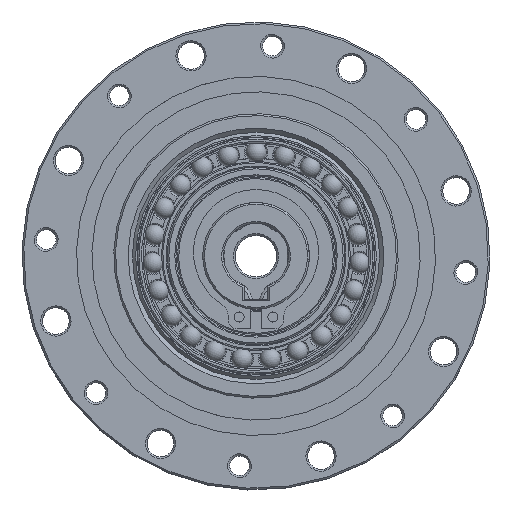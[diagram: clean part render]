
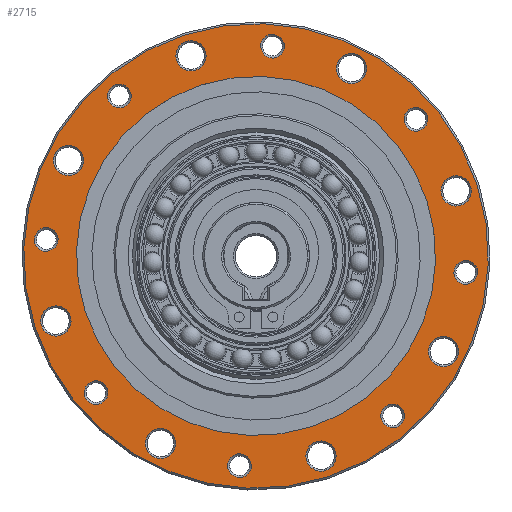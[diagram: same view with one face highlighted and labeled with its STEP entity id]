
A CAD part, top view. The second image highlights one B-rep face of the part: STEP entity #2715.
In plain terms, the highlighted planar face has unit normal (0, 0, 1).
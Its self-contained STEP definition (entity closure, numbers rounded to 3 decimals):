
#2715=ADVANCED_FACE('',(#3930,#3931,#3932,#3933,#3934,#3935,#3936,#3937,
#3938,#3939,#3940,#3941,#3942,#3943,#3944,#3945,#3946,#3947),#3347,.T.);
#3347=PLANE('',#12090);
#3930=FACE_BOUND('',#4901,.T.);
#3931=FACE_BOUND('',#4902,.T.);
#3932=FACE_BOUND('',#4903,.T.);
#3933=FACE_BOUND('',#4904,.T.);
#3934=FACE_BOUND('',#4905,.T.);
#3935=FACE_BOUND('',#4906,.T.);
#3936=FACE_BOUND('',#4907,.T.);
#3937=FACE_BOUND('',#4908,.T.);
#3938=FACE_BOUND('',#4909,.T.);
#3939=FACE_BOUND('',#4910,.T.);
#3940=FACE_BOUND('',#4911,.T.);
#3941=FACE_BOUND('',#4912,.T.);
#3942=FACE_BOUND('',#4913,.T.);
#3943=FACE_BOUND('',#4914,.T.);
#3944=FACE_BOUND('',#4915,.T.);
#3945=FACE_BOUND('',#4916,.T.);
#3946=FACE_BOUND('',#4917,.T.);
#3947=FACE_BOUND('',#4918,.T.);
#4901=EDGE_LOOP('',(#6159));
#4902=EDGE_LOOP('',(#6160));
#4903=EDGE_LOOP('',(#6161));
#4904=EDGE_LOOP('',(#6162));
#4905=EDGE_LOOP('',(#6163));
#4906=EDGE_LOOP('',(#6164));
#4907=EDGE_LOOP('',(#6165));
#4908=EDGE_LOOP('',(#6166));
#4909=EDGE_LOOP('',(#6167));
#4910=EDGE_LOOP('',(#6168));
#4911=EDGE_LOOP('',(#6169));
#4912=EDGE_LOOP('',(#6170));
#4913=EDGE_LOOP('',(#6171));
#4914=EDGE_LOOP('',(#6172));
#4915=EDGE_LOOP('',(#6173));
#4916=EDGE_LOOP('',(#6174));
#4917=EDGE_LOOP('',(#6175));
#4918=EDGE_LOOP('',(#6176));
#6159=ORIENTED_EDGE('',*,*,#9767,.T.);
#6160=ORIENTED_EDGE('',*,*,#9768,.T.);
#6161=ORIENTED_EDGE('',*,*,#9769,.T.);
#6162=ORIENTED_EDGE('',*,*,#9770,.T.);
#6163=ORIENTED_EDGE('',*,*,#9771,.T.);
#6164=ORIENTED_EDGE('',*,*,#9772,.T.);
#6165=ORIENTED_EDGE('',*,*,#9773,.T.);
#6166=ORIENTED_EDGE('',*,*,#9774,.T.);
#6167=ORIENTED_EDGE('',*,*,#9775,.T.);
#6168=ORIENTED_EDGE('',*,*,#9776,.T.);
#6169=ORIENTED_EDGE('',*,*,#9777,.T.);
#6170=ORIENTED_EDGE('',*,*,#9778,.T.);
#6171=ORIENTED_EDGE('',*,*,#9779,.T.);
#6172=ORIENTED_EDGE('',*,*,#9780,.T.);
#6173=ORIENTED_EDGE('',*,*,#9781,.T.);
#6174=ORIENTED_EDGE('',*,*,#9782,.T.);
#6175=ORIENTED_EDGE('',*,*,#9783,.T.);
#6176=ORIENTED_EDGE('',*,*,#9766,.F.);
#8696=VERTEX_POINT('',#17436);
#8697=VERTEX_POINT('',#17439);
#8698=VERTEX_POINT('',#17441);
#8699=VERTEX_POINT('',#17443);
#8700=VERTEX_POINT('',#17445);
#8701=VERTEX_POINT('',#17447);
#8702=VERTEX_POINT('',#17449);
#8703=VERTEX_POINT('',#17451);
#8704=VERTEX_POINT('',#17453);
#8705=VERTEX_POINT('',#17455);
#8706=VERTEX_POINT('',#17457);
#8707=VERTEX_POINT('',#17459);
#8708=VERTEX_POINT('',#17461);
#8709=VERTEX_POINT('',#17463);
#8710=VERTEX_POINT('',#17465);
#8711=VERTEX_POINT('',#17467);
#8712=VERTEX_POINT('',#17469);
#8713=VERTEX_POINT('',#17471);
#9766=EDGE_CURVE('',#8696,#8696,#11120,.T.);
#9767=EDGE_CURVE('',#8697,#8697,#11121,.T.);
#9768=EDGE_CURVE('',#8698,#8698,#11122,.T.);
#9769=EDGE_CURVE('',#8699,#8699,#11123,.T.);
#9770=EDGE_CURVE('',#8700,#8700,#11124,.T.);
#9771=EDGE_CURVE('',#8701,#8701,#11125,.T.);
#9772=EDGE_CURVE('',#8702,#8702,#11126,.T.);
#9773=EDGE_CURVE('',#8703,#8703,#11127,.T.);
#9774=EDGE_CURVE('',#8704,#8704,#11128,.T.);
#9775=EDGE_CURVE('',#8705,#8705,#11129,.T.);
#9776=EDGE_CURVE('',#8706,#8706,#11130,.T.);
#9777=EDGE_CURVE('',#8707,#8707,#11131,.T.);
#9778=EDGE_CURVE('',#8708,#8708,#11132,.T.);
#9779=EDGE_CURVE('',#8709,#8709,#11133,.T.);
#9780=EDGE_CURVE('',#8710,#8710,#11134,.T.);
#9781=EDGE_CURVE('',#8711,#8711,#11135,.T.);
#9782=EDGE_CURVE('',#8712,#8712,#11136,.T.);
#9783=EDGE_CURVE('',#8713,#8713,#11137,.T.);
#11120=CIRCLE('',#12071,39.2);
#11121=CIRCLE('',#12073,2.55);
#11122=CIRCLE('',#12074,2.);
#11123=CIRCLE('',#12075,2.55);
#11124=CIRCLE('',#12076,2.);
#11125=CIRCLE('',#12077,2.55);
#11126=CIRCLE('',#12078,2.);
#11127=CIRCLE('',#12079,2.55);
#11128=CIRCLE('',#12080,2.);
#11129=CIRCLE('',#12081,2.55);
#11130=CIRCLE('',#12082,2.);
#11131=CIRCLE('',#12083,2.55);
#11132=CIRCLE('',#12084,2.);
#11133=CIRCLE('',#12085,2.55);
#11134=CIRCLE('',#12086,2.);
#11135=CIRCLE('',#12087,2.55);
#11136=CIRCLE('',#12088,2.);
#11137=CIRCLE('',#12089,30.3);
#12071=AXIS2_PLACEMENT_3D('',#17435,#14006,#14007);
#12073=AXIS2_PLACEMENT_3D('',#17438,#14010,#14011);
#12074=AXIS2_PLACEMENT_3D('',#17440,#14012,#14013);
#12075=AXIS2_PLACEMENT_3D('',#17442,#14014,#14015);
#12076=AXIS2_PLACEMENT_3D('',#17444,#14016,#14017);
#12077=AXIS2_PLACEMENT_3D('',#17446,#14018,#14019);
#12078=AXIS2_PLACEMENT_3D('',#17448,#14020,#14021);
#12079=AXIS2_PLACEMENT_3D('',#17450,#14022,#14023);
#12080=AXIS2_PLACEMENT_3D('',#17452,#14024,#14025);
#12081=AXIS2_PLACEMENT_3D('',#17454,#14026,#14027);
#12082=AXIS2_PLACEMENT_3D('',#17456,#14028,#14029);
#12083=AXIS2_PLACEMENT_3D('',#17458,#14030,#14031);
#12084=AXIS2_PLACEMENT_3D('',#17460,#14032,#14033);
#12085=AXIS2_PLACEMENT_3D('',#17462,#14034,#14035);
#12086=AXIS2_PLACEMENT_3D('',#17464,#14036,#14037);
#12087=AXIS2_PLACEMENT_3D('',#17466,#14038,#14039);
#12088=AXIS2_PLACEMENT_3D('',#17468,#14040,#14041);
#12089=AXIS2_PLACEMENT_3D('',#17470,#14042,#14043);
#12090=AXIS2_PLACEMENT_3D('',#17472,#14044,#14045);
#14006=DIRECTION('',(0.,0.,-1.));
#14007=DIRECTION('',(-1.,0.,0.));
#14010=DIRECTION('',(0.,0.,-1.));
#14011=DIRECTION('',(1.,0.,0.));
#14012=DIRECTION('',(0.,0.,-1.));
#14013=DIRECTION('',(1.,0.,0.));
#14014=DIRECTION('',(0.,0.,-1.));
#14015=DIRECTION('',(1.,0.,0.));
#14016=DIRECTION('',(0.,0.,-1.));
#14017=DIRECTION('',(1.,0.,0.));
#14018=DIRECTION('',(0.,0.,-1.));
#14019=DIRECTION('',(1.,0.,0.));
#14020=DIRECTION('',(0.,0.,-1.));
#14021=DIRECTION('',(1.,0.,0.));
#14022=DIRECTION('',(0.,0.,-1.));
#14023=DIRECTION('',(1.,0.,0.));
#14024=DIRECTION('',(0.,0.,-1.));
#14025=DIRECTION('',(1.,0.,0.));
#14026=DIRECTION('',(0.,0.,-1.));
#14027=DIRECTION('',(1.,0.,0.));
#14028=DIRECTION('',(0.,0.,-1.));
#14029=DIRECTION('',(1.,0.,0.));
#14030=DIRECTION('',(0.,0.,-1.));
#14031=DIRECTION('',(1.,0.,0.));
#14032=DIRECTION('',(0.,0.,-1.));
#14033=DIRECTION('',(1.,0.,0.));
#14034=DIRECTION('',(0.,0.,-1.));
#14035=DIRECTION('',(1.,0.,0.));
#14036=DIRECTION('',(0.,0.,-1.));
#14037=DIRECTION('',(1.,0.,0.));
#14038=DIRECTION('',(0.,0.,-1.));
#14039=DIRECTION('',(1.,0.,0.));
#14040=DIRECTION('',(0.,0.,-1.));
#14041=DIRECTION('',(1.,0.,0.));
#14042=DIRECTION('',(0.,0.,-1.));
#14043=DIRECTION('',(-1.,0.,0.));
#14044=DIRECTION('',(0.,0.,1.));
#14045=DIRECTION('',(1.,0.,0.));
#17435=CARTESIAN_POINT('',(0.,0.,22.8));
#17436=CARTESIAN_POINT('',(-39.2,0.,22.8));
#17438=CARTESIAN_POINT('',(-25.102,25.102,22.8));
#17439=CARTESIAN_POINT('',(-22.552,25.102,22.8));
#17440=CARTESIAN_POINT('',(13.585,32.798,22.8));
#17441=CARTESIAN_POINT('',(15.585,32.798,22.8));
#17442=CARTESIAN_POINT('',(-35.5,0.,22.8));
#17443=CARTESIAN_POINT('',(-32.95,0.,22.8));
#17444=CARTESIAN_POINT('',(-13.585,32.798,22.8));
#17445=CARTESIAN_POINT('',(-11.585,32.798,22.8));
#17446=CARTESIAN_POINT('',(-25.102,-25.102,22.8));
#17447=CARTESIAN_POINT('',(-22.552,-25.102,22.8));
#17448=CARTESIAN_POINT('',(-32.798,13.585,22.8));
#17449=CARTESIAN_POINT('',(-30.798,13.585,22.8));
#17450=CARTESIAN_POINT('',(0.,-35.5,22.8));
#17451=CARTESIAN_POINT('',(2.55,-35.5,22.8));
#17452=CARTESIAN_POINT('',(-32.798,-13.585,22.8));
#17453=CARTESIAN_POINT('',(-30.798,-13.585,22.8));
#17454=CARTESIAN_POINT('',(25.102,-25.102,22.8));
#17455=CARTESIAN_POINT('',(27.652,-25.102,22.8));
#17456=CARTESIAN_POINT('',(-13.585,-32.798,22.8));
#17457=CARTESIAN_POINT('',(-11.585,-32.798,22.8));
#17458=CARTESIAN_POINT('',(35.5,0.,22.8));
#17459=CARTESIAN_POINT('',(38.05,0.,22.8));
#17460=CARTESIAN_POINT('',(13.585,-32.798,22.8));
#17461=CARTESIAN_POINT('',(15.585,-32.798,22.8));
#17462=CARTESIAN_POINT('',(25.102,25.102,22.8));
#17463=CARTESIAN_POINT('',(27.652,25.102,22.8));
#17464=CARTESIAN_POINT('',(32.798,-13.585,22.8));
#17465=CARTESIAN_POINT('',(34.798,-13.585,22.8));
#17466=CARTESIAN_POINT('',(0.,35.5,22.8));
#17467=CARTESIAN_POINT('',(2.55,35.5,22.8));
#17468=CARTESIAN_POINT('',(32.798,13.585,22.8));
#17469=CARTESIAN_POINT('',(34.798,13.585,22.8));
#17470=CARTESIAN_POINT('',(0.,0.,22.8));
#17471=CARTESIAN_POINT('',(-30.3,0.,22.8));
#17472=CARTESIAN_POINT('',(39.2,0.,22.8));
